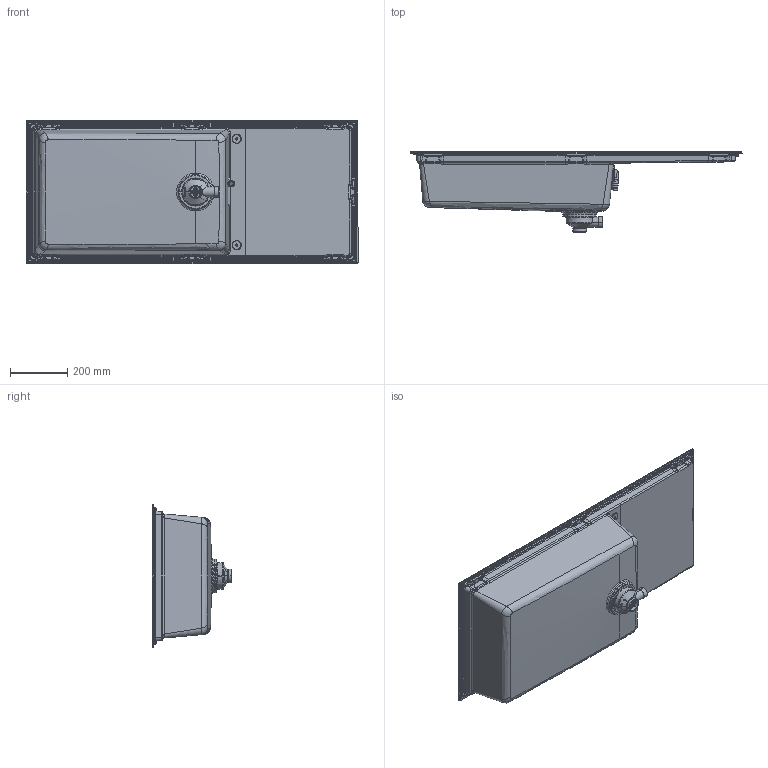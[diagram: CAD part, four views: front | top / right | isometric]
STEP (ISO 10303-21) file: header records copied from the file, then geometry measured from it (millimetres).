
FILE_DESCRIPTION (( 'STEP AP203' ), '1' );
FILE_NAME ('3d_sintesi_510.STEP', '2022-01-11T11:33:49', ( '' ), ( '' ), 'SwSTEP 2.0', 'SolidWorks 2021', '' );
FILE_SCHEMA (( 'CONFIG_CONTROL_DESIGN' ));
Products named in the file (4): TP_rettangolare slim_anonima; 3d_sintesi_510; sintesi_510_SBORDATO; 3d_piletta_2021_1via_X_ASSIEME_LAVELLI_Default<A macchina>
Assembly tree (3 placements, depth 2):
  3d_sintesi_510
    sintesi_510_SBORDATO
    TP_rettangolare slim_anonima
    3d_piletta_2021_1via_X_ASSIEME_LAVELLI_Default<A macchina>
Bounding box: 1160 x 279.44 x 500 mm (x, y, z)
Volume: 7709249.8 mm3; surface area: 2095825.3 mm2
Topology: 10 solids, 10 shells, 4017 faces, 10007 edges, 6051 vertices
Faces by surface type: bspline 1545, cylinder 974, plane 856, cone 405, torus 229, sphere 8
Entity records: 226274 total; most frequent: CARTESIAN_POINT 142874, ORIENTED_EDGE 19848, DIRECTION 13672, EDGE_CURVE 9924, VERTEX_POINT 6050, AXIS2_PLACEMENT_3D 5282, EDGE_LOOP 4226, FACE_OUTER_BOUND 4017
